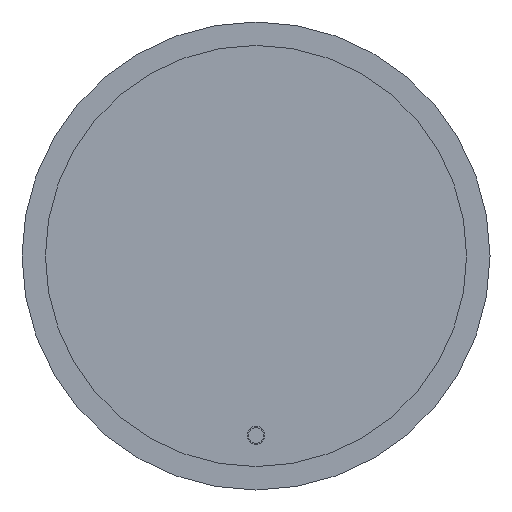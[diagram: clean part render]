
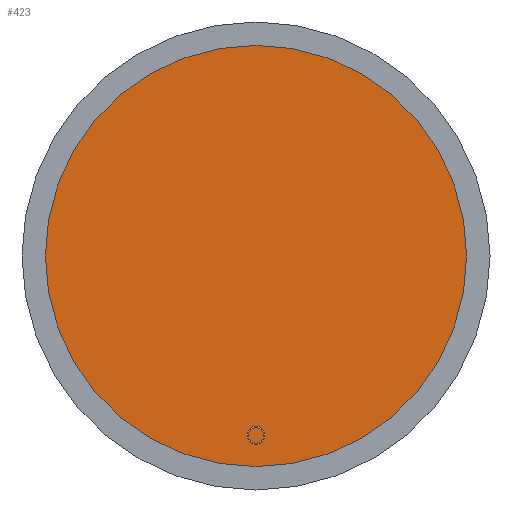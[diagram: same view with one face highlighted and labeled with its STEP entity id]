
A CAD part, front view. The second image highlights one B-rep face of the part: STEP entity #423.
In plain terms, the highlighted planar face has unit normal (0, -1, 0).
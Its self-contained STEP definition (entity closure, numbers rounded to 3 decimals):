
#34=PLANE('',#504);
#55=FACE_OUTER_BOUND('',#83,.T.);
#83=EDGE_LOOP('',(#336,#337));
#149=CIRCLE('',#501,300.);
#150=CIRCLE('',#502,300.);
#190=VERTEX_POINT('',#756);
#191=VERTEX_POINT('',#758);
#241=EDGE_CURVE('',#190,#191,#149,.T.);
#242=EDGE_CURVE('',#191,#190,#150,.T.);
#336=ORIENTED_EDGE('',*,*,#242,.F.);
#337=ORIENTED_EDGE('',*,*,#241,.F.);
#423=ADVANCED_FACE('',(#55),#34,.T.);
#501=AXIS2_PLACEMENT_3D('',#759,#625,#626);
#502=AXIS2_PLACEMENT_3D('',#760,#627,#628);
#504=AXIS2_PLACEMENT_3D('',#762,#631,#632);
#625=DIRECTION('center_axis',(0.,1.,0.));
#626=DIRECTION('ref_axis',(1.,0.,0.));
#627=DIRECTION('center_axis',(0.,1.,0.));
#628=DIRECTION('ref_axis',(1.,0.,0.));
#631=DIRECTION('center_axis',(0.,-1.,0.));
#632=DIRECTION('ref_axis',(0.,0.,-1.));
#756=CARTESIAN_POINT('',(0.,-35.,-300.));
#758=CARTESIAN_POINT('',(0.,-35.,300.));
#759=CARTESIAN_POINT('Origin',(0.,-35.,0.));
#760=CARTESIAN_POINT('Origin',(0.,-35.,0.));
#762=CARTESIAN_POINT('Origin',(0.,-35.,300.));
